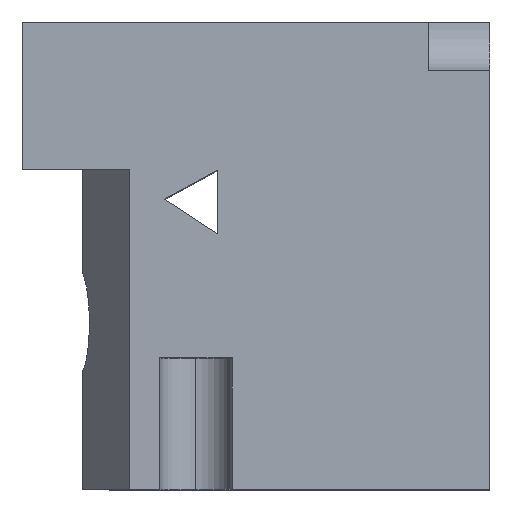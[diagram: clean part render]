
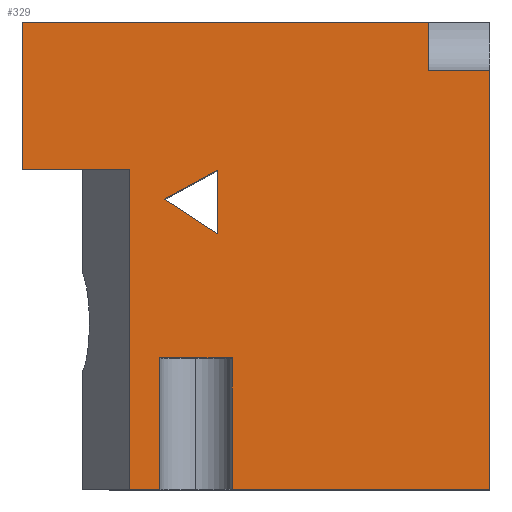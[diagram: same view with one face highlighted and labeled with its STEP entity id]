
A CAD part, top view. The second image highlights one B-rep face of the part: STEP entity #329.
In plain terms, the highlighted planar face has unit normal (0, 0, 1).
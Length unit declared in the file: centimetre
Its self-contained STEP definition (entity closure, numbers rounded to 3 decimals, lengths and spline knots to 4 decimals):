
#3 = ORIENTED_EDGE ( 'NONE', *, *, #1363, .T. ) ;
#7 = LINE ( 'NONE', #1264, #1122 ) ;
#16 = FACE_OUTER_BOUND ( 'NONE', #1148, .T. ) ;
#17 = ORIENTED_EDGE ( 'NONE', *, *, #1137, .T. ) ;
#29 = ORIENTED_EDGE ( 'NONE', *, *, #1037, .T. ) ;
#30 = CARTESIAN_POINT ( 'NONE',  ( 869.0062, 896.6169, 1000. ) ) ;
#38 = VECTOR ( 'NONE', #524, 100. ) ;
#73 = LINE ( 'NONE', #977, #950 ) ;
#114 = VERTEX_POINT ( 'NONE', #957 ) ;
#132 = DIRECTION ( 'NONE',  ( 0., 0., 1. ) ) ;
#145 = DIRECTION ( 'NONE',  ( 1., 0., 0. ) ) ;
#170 = CARTESIAN_POINT ( 'NONE',  ( 1000., 0., 1000. ) ) ;
#187 = CARTESIAN_POINT ( 'NONE',  ( 449.3149, 0., 1000. ) ) ;
#207 = ORIENTED_EDGE ( 'NONE', *, *, #300, .T. ) ;
#221 = ORIENTED_EDGE ( 'NONE', *, *, #744, .T. ) ;
#222 = DIRECTION ( 'NONE',  ( 0., 1., 0. ) ) ;
#237 = VERTEX_POINT ( 'NONE', #1119 ) ;
#249 = EDGE_CURVE ( 'NONE', #1123, #292, #789, .T. ) ;
#250 = ORIENTED_EDGE ( 'NONE', *, *, #1150, .F. ) ;
#286 = DIRECTION ( 'NONE',  ( 0., -1., 0. ) ) ;
#292 = VERTEX_POINT ( 'NONE', #473 ) ;
#300 = EDGE_CURVE ( 'NONE', #292, #589, #1063, .T. ) ;
#319 = EDGE_CURVE ( 'NONE', #114, #1379, #581, .T. ) ;
#328 = DIRECTION ( 'NONE',  ( 0., -1., 0. ) ) ;
#329 = ADVANCED_FACE ( 'NONE', ( #16, #821 ), #1288, .T. ) ;
#331 = DIRECTION ( 'NONE',  ( 0., -1., 0. ) ) ;
#346 = CARTESIAN_POINT ( 'NONE',  ( 0., 1000., 1000. ) ) ;
#360 = DIRECTION ( 'NONE',  ( -1., 0., 0. ) ) ;
#363 = VERTEX_POINT ( 'NONE', #622 ) ;
#371 = VECTOR ( 'NONE', #932, 100. ) ;
#405 = EDGE_CURVE ( 'NONE', #1379, #1016, #971, .T. ) ;
#428 = CARTESIAN_POINT ( 'NONE',  ( 228.9521, 0., 1000. ) ) ;
#445 = LINE ( 'NONE', #1455, #530 ) ;
#457 = LINE ( 'NONE', #1498, #963 ) ;
#473 = CARTESIAN_POINT ( 'NONE',  ( 869.0062, 1000., 1000. ) ) ;
#506 = VECTOR ( 'NONE', #1492, 100. ) ;
#524 = DIRECTION ( 'NONE',  ( 0.88, 0.476, 0. ) ) ;
#529 = VERTEX_POINT ( 'NONE', #428 ) ;
#530 = VECTOR ( 'NONE', #331, 100. ) ;
#575 = CARTESIAN_POINT ( 'NONE',  ( 1000., 1000., 1000. ) ) ;
#581 = LINE ( 'NONE', #1506, #997 ) ;
#589 = VERTEX_POINT ( 'NONE', #1358 ) ;
#597 = LINE ( 'NONE', #30, #1295 ) ;
#610 = LINE ( 'NONE', #746, #748 ) ;
#622 = CARTESIAN_POINT ( 'NONE',  ( 303.415, 621.1286, 1000. ) ) ;
#650 = CARTESIAN_POINT ( 'NONE',  ( 293.3038, 281.2896, 1000. ) ) ;
#653 = VECTOR ( 'NONE', #222, 100. ) ;
#674 = ORIENTED_EDGE ( 'NONE', *, *, #720, .F. ) ;
#686 = EDGE_CURVE ( 'NONE', #1223, #237, #7, .T. ) ;
#687 = ORIENTED_EDGE ( 'NONE', *, *, #1156, .T. ) ;
#698 = ORIENTED_EDGE ( 'NONE', *, *, #1366, .T. ) ;
#702 = ORIENTED_EDGE ( 'NONE', *, *, #686, .T. ) ;
#707 = CARTESIAN_POINT ( 'NONE',  ( 0., 0., 1000. ) ) ;
#720 = EDGE_CURVE ( 'NONE', #1123, #830, #597, .T. ) ;
#744 = EDGE_CURVE ( 'NONE', #529, #1016, #1493, .T. ) ;
#746 = CARTESIAN_POINT ( 'NONE',  ( 303.415, 621.1286, 1000. ) ) ;
#748 = VECTOR ( 'NONE', #1203, 100. ) ;
#789 = LINE ( 'NONE', #1354, #875 ) ;
#790 = EDGE_CURVE ( 'NONE', #114, #1065, #73, .T. ) ;
#793 = LINE ( 'NONE', #575, #653 ) ;
#817 = CARTESIAN_POINT ( 'NONE',  ( 0., 685.2854, 1000. ) ) ;
#821 = FACE_BOUND ( 'NONE', #1059, .T. ) ;
#830 = VERTEX_POINT ( 'NONE', #1092 ) ;
#875 = VECTOR ( 'NONE', #1249, 100. ) ;
#880 = VECTOR ( 'NONE', #959, 100. ) ;
#894 = ORIENTED_EDGE ( 'NONE', *, *, #1465, .T. ) ;
#914 = VERTEX_POINT ( 'NONE', #1233 ) ;
#919 = CARTESIAN_POINT ( 'NONE',  ( 869.0062, 896.6169, 1000. ) ) ;
#932 = DIRECTION ( 'NONE',  ( -1., 0., 0. ) ) ;
#950 = VECTOR ( 'NONE', #1099, 100. ) ;
#957 = CARTESIAN_POINT ( 'NONE',  ( 449.3149, 281.2896, 1000. ) ) ;
#959 = DIRECTION ( 'NONE',  ( 1., 0., 0. ) ) ;
#963 = VECTOR ( 'NONE', #328, 100. ) ;
#971 = LINE ( 'NONE', #1430, #1487 ) ;
#972 = LINE ( 'NONE', #1182, #1405 ) ;
#977 = CARTESIAN_POINT ( 'NONE',  ( 449.3149, 281.2896, 1000. ) ) ;
#997 = VECTOR ( 'NONE', #360, 100. ) ;
#1000 = LINE ( 'NONE', #1125, #38 ) ;
#1016 = VERTEX_POINT ( 'NONE', #1374 ) ;
#1026 = CARTESIAN_POINT ( 'NONE',  ( 418.1234, 683.1721, 1000. ) ) ;
#1037 = EDGE_CURVE ( 'NONE', #363, #1223, #1000, .T. ) ;
#1044 = ORIENTED_EDGE ( 'NONE', *, *, #790, .T. ) ;
#1049 = AXIS2_PLACEMENT_3D ( 'NONE', #707, #132, #1174 ) ;
#1051 = ORIENTED_EDGE ( 'NONE', *, *, #249, .T. ) ;
#1052 = ORIENTED_EDGE ( 'NONE', *, *, #319, .F. ) ;
#1059 = EDGE_LOOP ( 'NONE', ( #29, #702, #698 ) ) ;
#1063 = LINE ( 'NONE', #346, #371 ) ;
#1065 = VERTEX_POINT ( 'NONE', #187 ) ;
#1092 = CARTESIAN_POINT ( 'NONE',  ( 1000., 896.6169, 1000. ) ) ;
#1099 = DIRECTION ( 'NONE',  ( 0., -1., 0. ) ) ;
#1119 = CARTESIAN_POINT ( 'NONE',  ( 418.1234, 546.5348, 1000. ) ) ;
#1122 = VECTOR ( 'NONE', #1316, 100. ) ;
#1123 = VERTEX_POINT ( 'NONE', #919 ) ;
#1125 = CARTESIAN_POINT ( 'NONE',  ( 418.1234, 683.1721, 1000. ) ) ;
#1137 = EDGE_CURVE ( 'NONE', #1138, #529, #457, .T. ) ;
#1138 = VERTEX_POINT ( 'NONE', #1504 ) ;
#1148 = EDGE_LOOP ( 'NONE', ( #17, #221, #1500, #1052, #1044, #3, #687, #674, #1051, #207, #894, #250 ) ) ;
#1150 = EDGE_CURVE ( 'NONE', #1138, #914, #1381, .T. ) ;
#1156 = EDGE_CURVE ( 'NONE', #1349, #830, #793, .T. ) ;
#1174 = DIRECTION ( 'NONE',  ( 1., 0., 0. ) ) ;
#1178 = DIRECTION ( 'NONE',  ( 1., 0., 0. ) ) ;
#1182 = CARTESIAN_POINT ( 'NONE',  ( 0., 0., 1000. ) ) ;
#1203 = DIRECTION ( 'NONE',  ( -0.838, 0.545, 0. ) ) ;
#1223 = VERTEX_POINT ( 'NONE', #1026 ) ;
#1233 = CARTESIAN_POINT ( 'NONE',  ( 0., 685.2854, 1000. ) ) ;
#1249 = DIRECTION ( 'NONE',  ( 0., 1., 0. ) ) ;
#1264 = CARTESIAN_POINT ( 'NONE',  ( 418.1234, 546.5348, 1000. ) ) ;
#1288 = PLANE ( 'NONE',  #1049 ) ;
#1295 = VECTOR ( 'NONE', #1178, 100. ) ;
#1316 = DIRECTION ( 'NONE',  ( 0., -1., 0. ) ) ;
#1349 = VERTEX_POINT ( 'NONE', #170 ) ;
#1354 = CARTESIAN_POINT ( 'NONE',  ( 869.0062, 0., 1000. ) ) ;
#1358 = CARTESIAN_POINT ( 'NONE',  ( 0., 1000., 1000. ) ) ;
#1363 = EDGE_CURVE ( 'NONE', #1065, #1349, #972, .T. ) ;
#1366 = EDGE_CURVE ( 'NONE', #237, #363, #610, .T. ) ;
#1374 = CARTESIAN_POINT ( 'NONE',  ( 293.3038, 0., 1000. ) ) ;
#1379 = VERTEX_POINT ( 'NONE', #650 ) ;
#1381 = LINE ( 'NONE', #817, #506 ) ;
#1405 = VECTOR ( 'NONE', #145, 100. ) ;
#1413 = CARTESIAN_POINT ( 'NONE',  ( 0., 0., 1000. ) ) ;
#1430 = CARTESIAN_POINT ( 'NONE',  ( 293.3038, 281.2896, 1000. ) ) ;
#1455 = CARTESIAN_POINT ( 'NONE',  ( 0., 1000., 1000. ) ) ;
#1465 = EDGE_CURVE ( 'NONE', #589, #914, #445, .T. ) ;
#1487 = VECTOR ( 'NONE', #286, 100. ) ;
#1492 = DIRECTION ( 'NONE',  ( -1., 0., 0. ) ) ;
#1493 = LINE ( 'NONE', #1413, #880 ) ;
#1498 = CARTESIAN_POINT ( 'NONE',  ( 228.9521, 685.2854, 1000. ) ) ;
#1500 = ORIENTED_EDGE ( 'NONE', *, *, #405, .F. ) ;
#1504 = CARTESIAN_POINT ( 'NONE',  ( 228.9521, 685.2854, 1000. ) ) ;
#1506 = CARTESIAN_POINT ( 'NONE',  ( 0., 281.2896, 1000. ) ) ;
